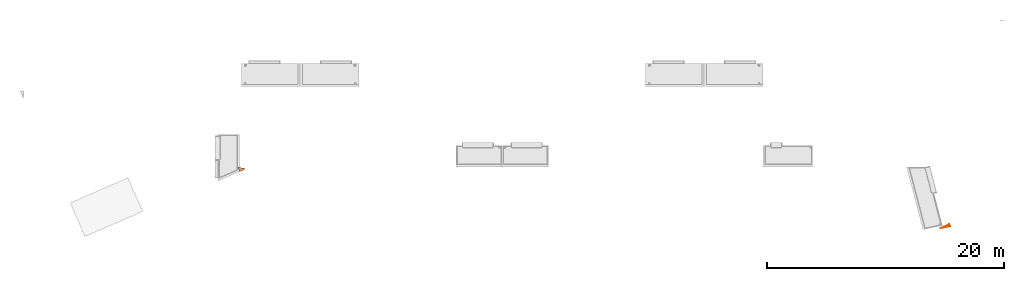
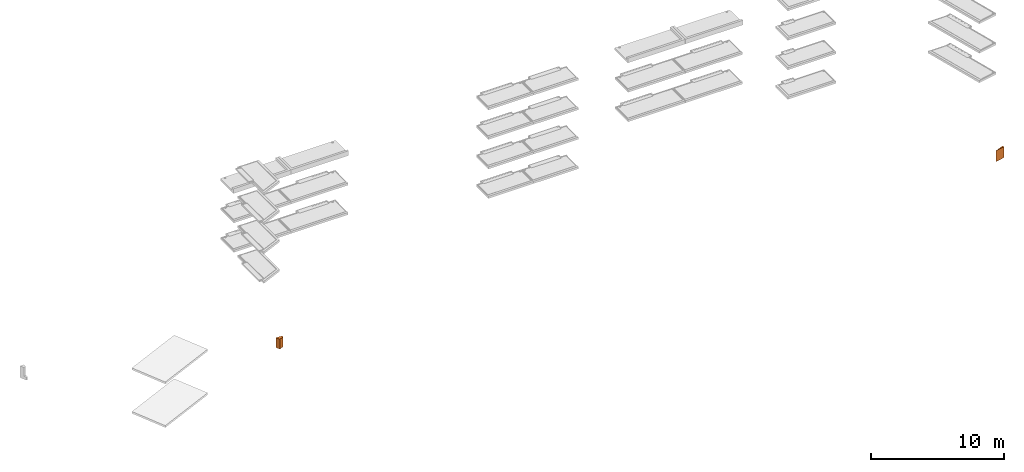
# One storey, part 2 of 31: 2 proxies.
"""IFC2X3 building model written with IfcOpenShell, lengths in centimetres."""

from ifc_helpers import new_model, entity, si_unit, converted_unit, derived_unit, direction, frame, origin, place, context, subcontext, project, spatial, polyline, outline, extrude, source, transform, mapped, material, type_object, type_shapes, element, save


model = new_model("IFC2X3")

# Units and contexts
model_context = context("Model", 3, precision=0.001, world=origin(), true_north=direction((6.12303176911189e-17, 1.0)))
body_context = subcontext(model_context, "Body", "Model", "MODEL_VIEW")
ifc_project = project(units=[si_unit("LENGTHUNIT", "METRE", prefix="CENTI"), si_unit("AREAUNIT", "SQUARE_METRE"), si_unit("VOLUMEUNIT", "CUBIC_METRE"), converted_unit("PLANEANGLEUNIT", "DEGREE", entity("IfcRatioMeasure", 0.0174532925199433), si_unit("PLANEANGLEUNIT", "RADIAN"), dimensions=[0, 0, 0, 0, 0, 0, 0]), si_unit("MASSUNIT", "GRAM", prefix="KILO"), derived_unit("MASSDENSITYUNIT", [(si_unit("MASSUNIT", "GRAM", prefix="KILO"), 1), (si_unit("LENGTHUNIT", "METRE"), -3)]), si_unit("TIMEUNIT", "SECOND"), si_unit("FREQUENCYUNIT", "HERTZ"), si_unit("THERMODYNAMICTEMPERATUREUNIT", "DEGREE_CELSIUS"), derived_unit("THERMALTRANSMITTANCEUNIT", [(si_unit("MASSUNIT", "GRAM", prefix="KILO"), 1), (si_unit("THERMODYNAMICTEMPERATUREUNIT", "KELVIN"), -1), (si_unit("TIMEUNIT", "SECOND"), -3)]), derived_unit("VOLUMETRICFLOWRATEUNIT", [(si_unit("LENGTHUNIT", "METRE"), 3), (si_unit("TIMEUNIT", "SECOND"), -1)]), si_unit("ELECTRICCURRENTUNIT", "AMPERE"), si_unit("ELECTRICVOLTAGEUNIT", "VOLT"), si_unit("POWERUNIT", "WATT"), si_unit("FORCEUNIT", "NEWTON"), si_unit("ILLUMINANCEUNIT", "LUX"), si_unit("LUMINOUSFLUXUNIT", "LUMEN"), si_unit("LUMINOUSINTENSITYUNIT", "CANDELA"), derived_unit("USERDEFINED", [(si_unit("MASSUNIT", "GRAM", prefix="KILO"), -1), (si_unit("LENGTHUNIT", "METRE"), -2), (si_unit("TIMEUNIT", "SECOND"), 3), (si_unit("LUMINOUSFLUXUNIT", "LUMEN"), 1)]), derived_unit("LINEARVELOCITYUNIT", [(si_unit("LENGTHUNIT", "METRE"), 1), (si_unit("TIMEUNIT", "SECOND"), -1)]), si_unit("PRESSUREUNIT", "PASCAL"), derived_unit("USERDEFINED", [(si_unit("LENGTHUNIT", "METRE"), -2), (si_unit("MASSUNIT", "GRAM", prefix="KILO"), 1), (si_unit("TIMEUNIT", "SECOND"), -2)])], contexts=[model_context])

# Site, building, storey
site_placement = place(None, origin())
site = spatial("IfcSite", under=ifc_project, at=site_placement, Name="Default", CompositionType="ELEMENT")
building_placement = place(site_placement, origin())
building = spatial("IfcBuilding", under=site, at=building_placement, Name="CAGE 03", CompositionType="ELEMENT")
storey_placement = place(building_placement, frame((0.0, 0.0, -400.0)))
storey = spatial("IfcBuildingStorey", under=building, at=storey_placement, Name="±0.00", CompositionType="ELEMENT", Elevation=-400.0)

# Proxies
ifc_material = material(Name="Béton, C25/30")
building_element_proxy_type_1 = type_object("IfcBuildingElementProxyType", Name="Ossature 1", PredefinedType="NOTDEFINED", material=ifc_material)
shared_shape_1 = source(origin(), body_context, "Body", "SweptSolid", [
    extrude(outline(polyline([(-2.6965265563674, -22.3104264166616), (11.6174935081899, -22.3104264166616), (11.6174935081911, 30.0986999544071), (-20.5384604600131, 14.5221528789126), (-2.6965265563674, -22.3104264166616)])), frame((4879.58765059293, 3776.85017185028, -124.0), z_axis=(0.0, 0.0, 1.0), x_axis=(0.0427203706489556, 0.999087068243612, 0.0)), (0.0, 0.0, 1.0), 90.0),
])
type_shapes(building_element_proxy_type_1, [shared_shape_1])
proxy_1_placement = place(storey_placement, frame((0.0, 0.0, 400.0)))
element("IfcBuildingElementProxy", 1, at=proxy_1_placement, inside=storey, type_object=building_element_proxy_type_1, material=ifc_material, Name="Ossature 1:Ossature 1", ObjectType="Ossature 1", context=body_context, shape_type="MappedRepresentation", body=[
    mapped(shared_shape_1, transform((0.0, 0.0, 0.0), scale=1.0)),
])
building_element_proxy_type_2 = type_object("IfcBuildingElementProxyType", Name="Lg79C'", PredefinedType="NOTDEFINED", material=ifc_material)
shared_shape_2 = source(origin(), body_context, "Body", "SweptSolid", [
    extrude(outline(polyline([(-26.6666666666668, -5.2610178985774), (53.333333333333, -5.26101789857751), (-26.6666666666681, 10.5220357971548), (-26.6666666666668, -5.2610178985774)])), frame((10837.5692942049, 3294.3251802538, -192.0), z_axis=(0.0, 0.0, 1.0), x_axis=(-0.921820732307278, -0.387616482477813, 0.0)), (0.0, 0.0, 1.0), 100.0),
])
type_shapes(building_element_proxy_type_2, [shared_shape_2])
proxy_2_placement = place(storey_placement, frame((0.0, 0.0, 400.0)))
element("IfcBuildingElementProxy", 2, at=proxy_2_placement, inside=storey, type_object=building_element_proxy_type_2, material=ifc_material, Name="Lg79C':Lg79C'", ObjectType="Lg79C'", context=body_context, shape_type="MappedRepresentation", body=[
    mapped(shared_shape_2, transform((0.0, 0.0, 0.0), scale=1.0)),
])

save(model, "model.ifc")
